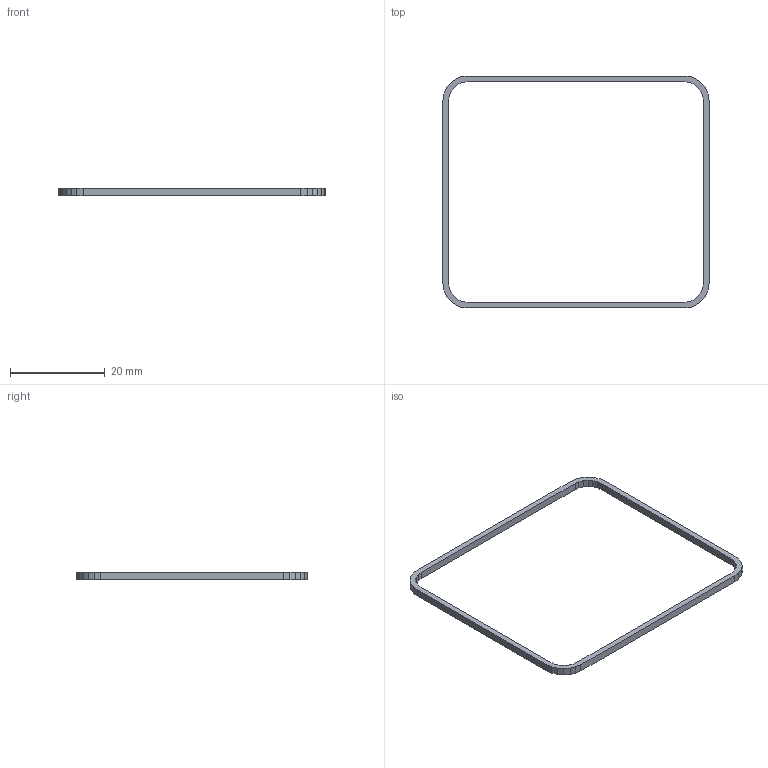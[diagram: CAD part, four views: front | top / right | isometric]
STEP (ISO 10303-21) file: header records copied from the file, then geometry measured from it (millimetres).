
FILE_DESCRIPTION(('AVO Performance Horse - montaje de la cincha (B-rep poliedrico)'),'2;1');
FILE_NAME('AVO_CINCHA_R6_9_junta_TPU85A','2026-11-15T12:00:00',('AVO Performance Horse'),('AVO Performance Horse'),'avo_cad.py','avo_cad.py (numpy)','');
FILE_SCHEMA(('AUTOMOTIVE_DESIGN { 1 0 10303 214 1 1 1 1 }'));
Length unit declared in the file: millimetre
Products named in the file (1): AVO_CINCHA_R6_9_junta_TPU85A
Bounding box: 56.2 x 48.95 x 1.6 mm (x, y, z)
Volume: 379.1 mm3; surface area: 1106.5 mm2
Topology: 1 solids, 1 shells, 58 faces, 168 edges, 112 vertices
Faces by surface type: plane 58
Entity records: 1415 total; most frequent: ORIENTED_EDGE 336, VECTOR 168, LINE 168, EDGE_CURVE 168, CARTESIAN_POINT 113, VERTEX_POINT 112, EDGE_LOOP 60, AXIS2_PLACEMENT_3D 59
